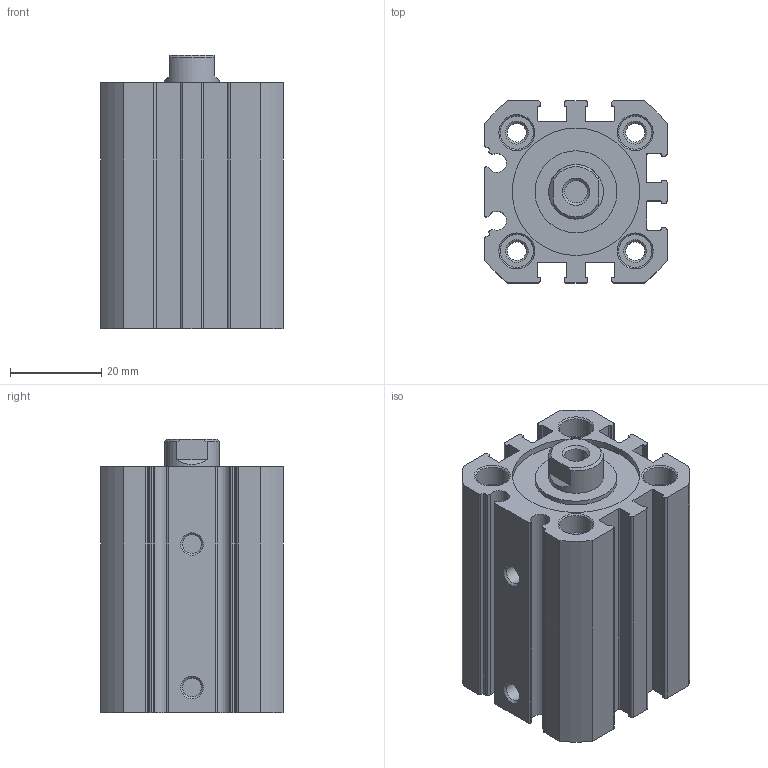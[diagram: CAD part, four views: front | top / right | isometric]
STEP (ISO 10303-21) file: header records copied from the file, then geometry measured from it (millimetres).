
FILE_DESCRIPTION( ( 'STEP AP214' ), '1' );
FILE_NAME( 'C:/Users/EMC02301/Desktop/RU0638 SF图纸/SF25X15-S.stp', '2026-07-24T08:35:21', ( 'License CC BY-ND 4.0' ), ( 'CADENAS' ), ' ', 'PARTsolutions', ' ' );
FILE_SCHEMA( ( 'AUTOMOTIVE_DESIGN { 1 0 10303 214 1 1 1 1 }' ) );
Length unit declared in the file: millimetre
Products named in the file (3): SF25X15-S()(00); _SF25X15()(_body) ; _SF25X15(rod-0)
Assembly tree (2 placements, depth 2):
  SF25X15-S()(00)
    _SF25X15()(_body) 
    _SF25X15(rod-0)
Bounding box: 40 x 40 x 60 mm (x, y, z)
Volume: 62356.3 mm3; surface area: 25300.6 mm2
Topology: 2 solids, 2 shells, 194 faces, 499 edges, 326 vertices
Faces by surface type: plane 87, cylinder 84, cone 23
Full cylindrical faces by diameter (mm): 4.134 x6, 4.917 x1, 7.3 x8, 12 x2, 18 x1, 25 x3, 28 x1
Entity records: 7330 total; most frequent: DIRECTION 1038, CARTESIAN_POINT 987, ORIENTED_EDGE 908, EDGE_CURVE 454, AXIS2_PLACEMENT_3D 391, VERTEX_POINT 324, EDGE_LOOP 262, LINE 256
